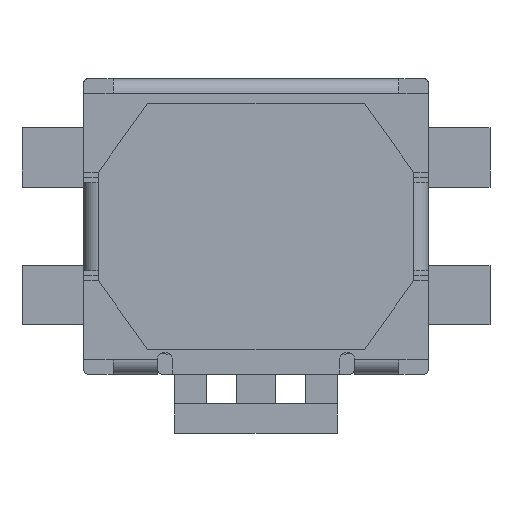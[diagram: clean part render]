
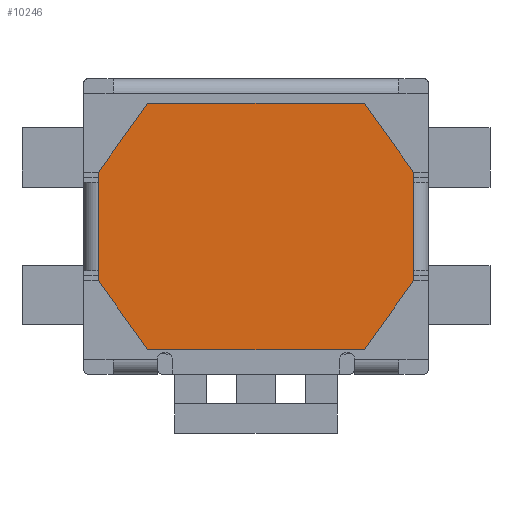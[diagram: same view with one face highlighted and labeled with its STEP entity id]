
A CAD part, front view. The second image highlights one B-rep face of the part: STEP entity #10246.
In plain terms, the highlighted planar face has unit normal (0, -1, 0).
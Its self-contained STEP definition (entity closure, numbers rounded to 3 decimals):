
#10041=DIRECTION('',(0.581,0.,-0.814));
#10042=VECTOR('',#10041,0.86);
#10043=CARTESIAN_POINT('',(-1.6,-0.17,-0.55));
#10044=LINE('',#10043,#10042);
#10048=DIRECTION('',(0.,0.,1.));
#10049=VECTOR('',#10048,1.1);
#10050=CARTESIAN_POINT('',(-1.6,-0.17,-0.55));
#10051=LINE('',#10050,#10049);
#10055=DIRECTION('',(-0.581,0.,-0.814));
#10056=VECTOR('',#10055,0.86);
#10057=CARTESIAN_POINT('',(-1.1,-0.17,1.25));
#10058=LINE('',#10057,#10056);
#10062=DIRECTION('',(1.,0.,0.));
#10063=VECTOR('',#10062,2.2);
#10064=CARTESIAN_POINT('',(-1.1,-0.17,1.25));
#10065=LINE('',#10064,#10063);
#10069=DIRECTION('',(-0.581,0.,0.814));
#10070=VECTOR('',#10069,0.86);
#10071=CARTESIAN_POINT('',(1.6,-0.17,0.55));
#10072=LINE('',#10071,#10070);
#10076=DIRECTION('',(0.,0.,-1.));
#10077=VECTOR('',#10076,1.1);
#10078=CARTESIAN_POINT('',(1.6,-0.17,0.55));
#10079=LINE('',#10078,#10077);
#10083=DIRECTION('',(0.581,0.,0.814));
#10084=VECTOR('',#10083,0.86);
#10085=CARTESIAN_POINT('',(1.1,-0.17,-1.25));
#10086=LINE('',#10085,#10084);
#10090=DIRECTION('',(-1.,0.,0.));
#10091=VECTOR('',#10090,2.2);
#10092=CARTESIAN_POINT('',(1.1,-0.17,-1.25));
#10093=LINE('',#10092,#10091);
#10153=CARTESIAN_POINT('',(-1.6,-0.17,-0.55));
#10154=CARTESIAN_POINT('',(-1.1,-0.17,-1.25));
#10155=VERTEX_POINT('',#10153);
#10156=VERTEX_POINT('',#10154);
#10165=CARTESIAN_POINT('',(1.1,-0.17,-1.25));
#10166=VERTEX_POINT('',#10165);
#10167=CARTESIAN_POINT('',(-1.6,-0.17,0.55));
#10168=VERTEX_POINT('',#10167);
#10169=CARTESIAN_POINT('',(1.6,-0.17,-0.55));
#10170=VERTEX_POINT('',#10169);
#10173=CARTESIAN_POINT('',(1.6,-0.17,0.55));
#10174=CARTESIAN_POINT('',(1.1,-0.17,1.25));
#10175=VERTEX_POINT('',#10173);
#10176=VERTEX_POINT('',#10174);
#10181=CARTESIAN_POINT('',(-1.1,-0.17,1.25));
#10182=VERTEX_POINT('',#10181);
#10224=CARTESIAN_POINT('',(0.,-0.17,0.));
#10225=DIRECTION('',(0.,1.,0.));
#10226=DIRECTION('',(1.,0.,0.));
#10227=AXIS2_PLACEMENT_3D('',#10224,#10225,#10226);
#10228=PLANE('',#10227);
#10229=ORIENTED_EDGE('',*,*,#10214,.F.);
#10231=ORIENTED_EDGE('',*,*,#10230,.T.);
#10233=ORIENTED_EDGE('',*,*,#10232,.F.);
#10235=ORIENTED_EDGE('',*,*,#10234,.T.);
#10237=ORIENTED_EDGE('',*,*,#10236,.F.);
#10239=ORIENTED_EDGE('',*,*,#10238,.T.);
#10241=ORIENTED_EDGE('',*,*,#10240,.F.);
#10243=ORIENTED_EDGE('',*,*,#10242,.T.);
#10244=EDGE_LOOP('',(#10229,#10231,#10233,#10235,#10237,#10239,#10241,#10243));
#10245=FACE_OUTER_BOUND('',#10244,.F.);
#10214=EDGE_CURVE('',#10155,#10156,#10044,.T.);
#10230=EDGE_CURVE('',#10155,#10168,#10051,.T.);
#10232=EDGE_CURVE('',#10182,#10168,#10058,.T.);
#10234=EDGE_CURVE('',#10182,#10176,#10065,.T.);
#10236=EDGE_CURVE('',#10175,#10176,#10072,.T.);
#10238=EDGE_CURVE('',#10175,#10170,#10079,.T.);
#10240=EDGE_CURVE('',#10166,#10170,#10086,.T.);
#10242=EDGE_CURVE('',#10166,#10156,#10093,.T.);
#10246=ADVANCED_FACE('',(#10245),#10228,.F.);
